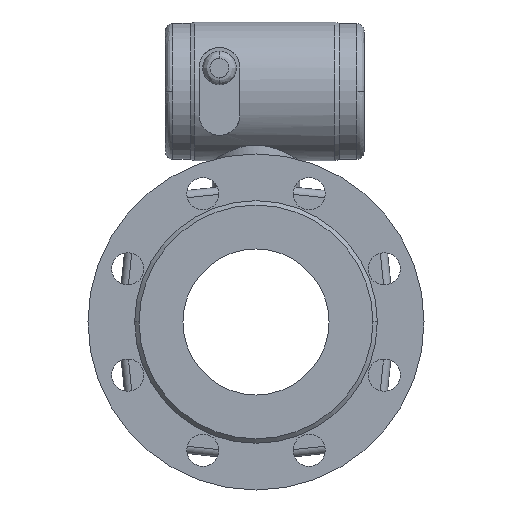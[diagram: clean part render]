
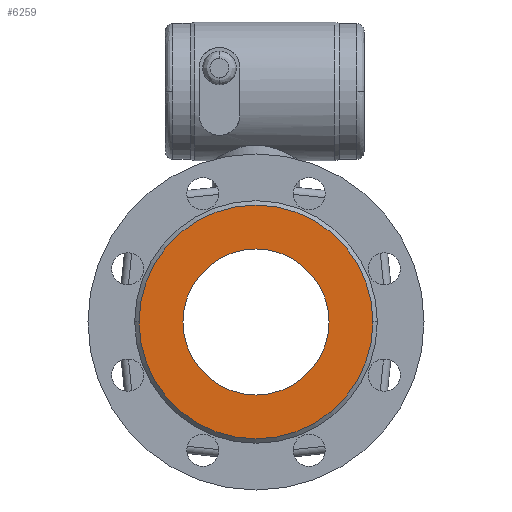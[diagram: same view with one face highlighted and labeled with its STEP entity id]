
A CAD part, front view. The second image highlights one B-rep face of the part: STEP entity #6259.
In plain terms, the highlighted planar face has unit normal (0, -1, 0).
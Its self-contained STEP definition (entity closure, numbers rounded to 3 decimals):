
#93 = DIRECTION ( 'NONE',  ( 0., 1., 0. ) ) ;
#543 = AXIS2_PLACEMENT_3D ( 'NONE', #1433, #5436, #2015 ) ;
#641 = ORIENTED_EDGE ( 'NONE', *, *, #5353, .T. ) ;
#730 = VERTEX_POINT ( 'NONE', #4805 ) ;
#786 = VERTEX_POINT ( 'NONE', #4170 ) ;
#790 = EDGE_CURVE ( 'NONE', #4392, #786, #6548, .T. ) ;
#1064 = AXIS2_PLACEMENT_3D ( 'NONE', #3124, #7085, #3694 ) ;
#1176 = CARTESIAN_POINT ( 'NONE',  ( 0., -125., 0. ) ) ;
#1189 = VERTEX_POINT ( 'NONE', #6107 ) ;
#1415 = ORIENTED_EDGE ( 'NONE', *, *, #5057, .T. ) ;
#1433 = CARTESIAN_POINT ( 'NONE',  ( 0., -125., 0. ) ) ;
#1527 = CARTESIAN_POINT ( 'NONE',  ( 0., -125., 0. ) ) ;
#1538 = DIRECTION ( 'NONE',  ( 0., 1., 0. ) ) ;
#1739 = CARTESIAN_POINT ( 'NONE',  ( 0., -125., 0. ) ) ;
#2015 = DIRECTION ( 'NONE',  ( 0., 0., -1. ) ) ;
#2073 = AXIS2_PLACEMENT_3D ( 'NONE', #1176, #93, #4088 ) ;
#2086 = DIRECTION ( 'NONE',  ( -1., 0., 0. ) ) ;
#2223 = FACE_BOUND ( 'NONE', #5696, .T. ) ;
#2291 = DIRECTION ( 'NONE',  ( -1., 0., 0. ) ) ;
#2929 = CIRCLE ( 'NONE', #1064, 50. ) ;
#3124 = CARTESIAN_POINT ( 'NONE',  ( 0., -125., 0. ) ) ;
#3368 = EDGE_CURVE ( 'NONE', #786, #4392, #4071, .T. ) ;
#3694 = DIRECTION ( 'NONE',  ( 0., 0., -1. ) ) ;
#4034 = AXIS2_PLACEMENT_3D ( 'NONE', #1527, #1538, #2086 ) ;
#4071 = CIRCLE ( 'NONE', #6034, 80. ) ;
#4088 = DIRECTION ( 'NONE',  ( 0., 0., 1. ) ) ;
#4170 = CARTESIAN_POINT ( 'NONE',  ( 80., -125., 0. ) ) ;
#4392 = VERTEX_POINT ( 'NONE', #5796 ) ;
#4805 = CARTESIAN_POINT ( 'NONE',  ( 0., -125., -50. ) ) ;
#5057 = EDGE_CURVE ( 'NONE', #1189, #730, #2929, .T. ) ;
#5353 = EDGE_CURVE ( 'NONE', #730, #1189, #5884, .T. ) ;
#5436 = DIRECTION ( 'NONE',  ( 0., 1., 0. ) ) ;
#5446 = ORIENTED_EDGE ( 'NONE', *, *, #790, .F. ) ;
#5696 = EDGE_LOOP ( 'NONE', ( #641, #1415 ) ) ;
#5722 = DIRECTION ( 'NONE',  ( 0., 1., 0. ) ) ;
#5796 = CARTESIAN_POINT ( 'NONE',  ( -80., -125., 0. ) ) ;
#5884 = CIRCLE ( 'NONE', #543, 50. ) ;
#5968 = EDGE_LOOP ( 'NONE', ( #5446, #6146 ) ) ;
#6034 = AXIS2_PLACEMENT_3D ( 'NONE', #1739, #5722, #2291 ) ;
#6107 = CARTESIAN_POINT ( 'NONE',  ( 0., -125., 50. ) ) ;
#6146 = ORIENTED_EDGE ( 'NONE', *, *, #3368, .F. ) ;
#6259 = ADVANCED_FACE ( 'NONE', ( #6742, #2223 ), #6879, .F. ) ;
#6548 = CIRCLE ( 'NONE', #4034, 80. ) ;
#6742 = FACE_OUTER_BOUND ( 'NONE', #5968, .T. ) ;
#6879 = PLANE ( 'NONE',  #2073 ) ;
#7085 = DIRECTION ( 'NONE',  ( 0., 1., 0. ) ) ;
